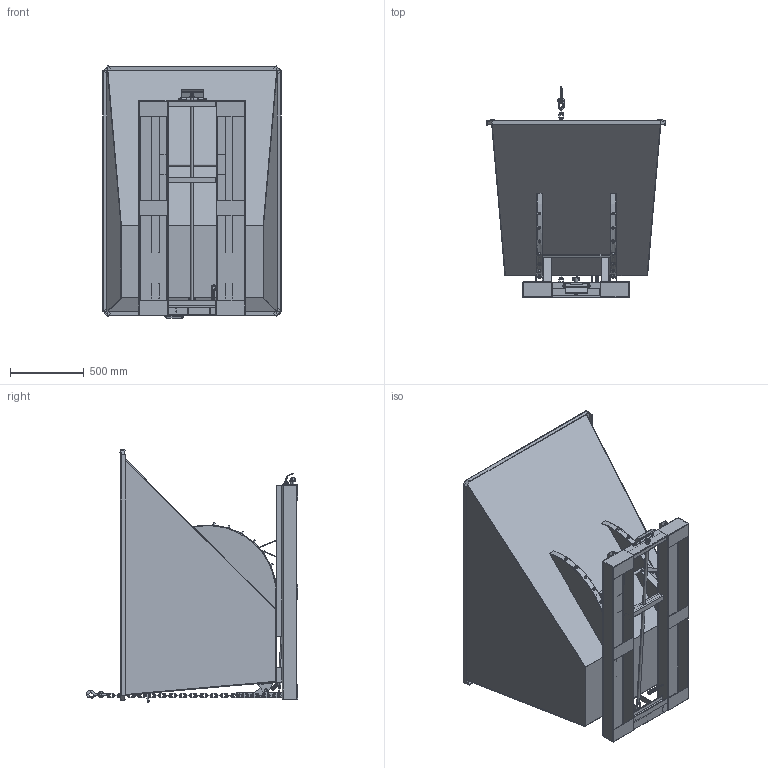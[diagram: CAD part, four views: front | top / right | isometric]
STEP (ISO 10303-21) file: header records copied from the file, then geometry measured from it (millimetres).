
FILE_DESCRIPTION (( 'STEP AP203' ), '1' );
FILE_NAME ('F-TS110倾翻斗.STEP', '2025-10-29T12:59:47', ( '' ), ( '' ), 'SwSTEP 2.0', 'SolidWorks 2018', '' );
FILE_SCHEMA (( 'CONFIG_CONTROL_DESIGN' ));
Length unit declared in the file: millimetre
Products named in the file (54): YG-耳12-60-Q235埴詩; FXB-T5x100x195-Q235源倛啣; YG-耳20-500-45#埴詩; YG-耳20-50-45#埴詩; TS110-02-01-01-Q235須翋啣T3; FXB-T3x961x485-Q235源倛啣; GB／T 93-1987标准型弹性垫圈(装配)12×3．1(65Mn); TS110-03-01-Q235埴詩-儂樓耳20-1415; TS90-03癲啣郪爾; TS90-06-03-Q345縐釱售忒T8; CG-T5×5#-321-Q235槽钢; WFG-T3℅耳20-75-Q235拸瑜奪; TS90-01-12-Q235羞詩-儂樓(5#-321); TS110-02-05-Q235酘耜啣T3; F-TS110-K-04脫杶郪爾-ぽ綴; TS90-06-02-Q345縐啣T8; F-TS110-K-04脫杶郪爾; TS90-06縐釱; TS110-02-02-Q235衵耜啣T3; CG-T5×5#-100-Q235槽钢; TS90-03癲啣郪爾-傲郈; TS110-02須郪爾; TS90-01-10-Q345嘐隅啣T8; GB／T 91-2000开口销 B型4×20(Q215); TS110-02-04-Q235謂啣T5; GB／T 91-2000开口销 B型4×25(Q215); TS110-02-03-Q235說倛啣T5; TS90-02-08-Q235嶺忒; F-TS110ъ楹須; FXB-T5x177x50-Q235源倛啣; TS90-06-01-45#邧謂种耳20-185; TS90-08-45#邧謂种-傲郈; TS90-04-01-Q345縐弇釱耜啣T8; TS90-03-01-Q235癲啣殏啣T5; FXB-T8x50x100-Q345源倛啣; TS110-01-02-Q235 羞詩-儂樓; TS110-03階裝郪爾-傲郈; TS110-01-01-Q235源倛啣-儂樓T5; JG-T5x63x40-321-Q235褒詩; GB／T 97．2-1985平垫圈 倒角型 A级20×3(钢)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
Assembly tree (97 placements, depth 4):
  F-TS110ъ楹須
    F-TS110-K-04脫杶郪爾-ぽ綴
      F-TS110-K-04脫杶郪爾
        TS110-01-01-Q235源倛啣-儂樓T5  x2
        TS110-01-02-Q235 羞詩-儂樓  x2
        FXB-T5x100x195-Q235源倛啣  x6
        JG-T5x63x40-321-Q235褒詩
        TS90-01-10-Q345嘐隅啣T8  x2
        8#蟈諶  x2
        CG-T5×5#-321-Q235槽钢
        TS90-01-12-Q235羞詩-儂樓(5#-321)  x2
        YG-耳12-60-Q235埴詩
        CG-T5×5#-100-Q235槽钢  x2
        WFG-T3℅耳20-75-Q235拸瑜奪
        YG-耳20-500-45#埴詩
        FXB-T5x177x50-Q235源倛啣  x4
        TS90-01-04-Q235源倛啣-儂樓T5
    TS110-02須郪爾-ぽ綴
      TS110-02須郪爾
        TS110-02-01-01-Q235須翋啣T3
        TS110-02-01-02-Q235須翋啣T3
        FXB-T3x961x485-Q235源倛啣
        TS110-02-02-Q235衵耜啣T3
        TS110-02-03-Q235說倛啣T5  x2
        TS110-02-04-Q235謂啣T5  x2
        TS110-02-05-Q235酘耜啣T3
        TS90-02-05-45#隅弇翐  x16
        TS90-02-08-Q235嶺忒
        JG-T3x30#-45-Q235褒詩  x4
        FXB-T8x50x100-Q345源倛啣
        TS90-04-01-Q345縐弇釱耜啣T8  x2
        YG-耳20-50-45#埴詩
    TS110-03階裝郪爾-傲郈
      TS110-03階裝郪爾
        TS110-03-01-Q235埴詩-儂樓耳20-1415
        WLL-0.5T迠諶
    TS90-03癲啣郪爾-傲郈
      TS90-03癲啣郪爾
        TS90-03-01-Q235癲啣殏啣T5
        WFG-T3x朴20-35-Q235拸瑜奪  x2
    TS90-06縐釱-傲郈
      TS90-06縐釱
        TS90-06-01-45#邧謂种耳20-185
        TS90-06-02-Q345縐啣T8
        TS90-06-03-Q345縐釱售忒T8
    TS90-08-45#邧謂种-傲郈
      TS90-08-Q235邧謂种耳12-190
    WLL-0.5T迠諶  x2
    EALT-8#-1200蟈沭
    WLL-750Lbs粟銅像
    GB／T 97．2-1985平垫圈 倒角型 A级20×3(钢)  x3
    GB／T 91-2000开口销 B型4×25(Q215)  x3
    GB／T 93-1987标准型弹性垫圈(装配)12×3．1(65Mn)  x2
    GB／T 91-2000开口销 B型4×20(Q215)  x2
    EATH-φ3×35×φ22-150-LS拉伸弹簧
Bounding box: 1212.38 x 1430.24 x 1709.78 mm (x, y, z)
Volume: 28988700.1 mm3; surface area: 16230933.2 mm2
Topology: 122 solids, 122 shells, 1409 faces, 3116 edges, 1881 vertices
Faces by surface type: plane 506, cylinder 458, torus 270, cone 112, bspline 63
Entity records: 44419 total; most frequent: CARTESIAN_POINT 18719, DIRECTION 4107, ORIENTED_EDGE 3738, EDGE_CURVE 1869, AXIS2_PLACEMENT_3D 1632, VERTEX_POINT 1113, EDGE_LOOP 898, LINE 843
